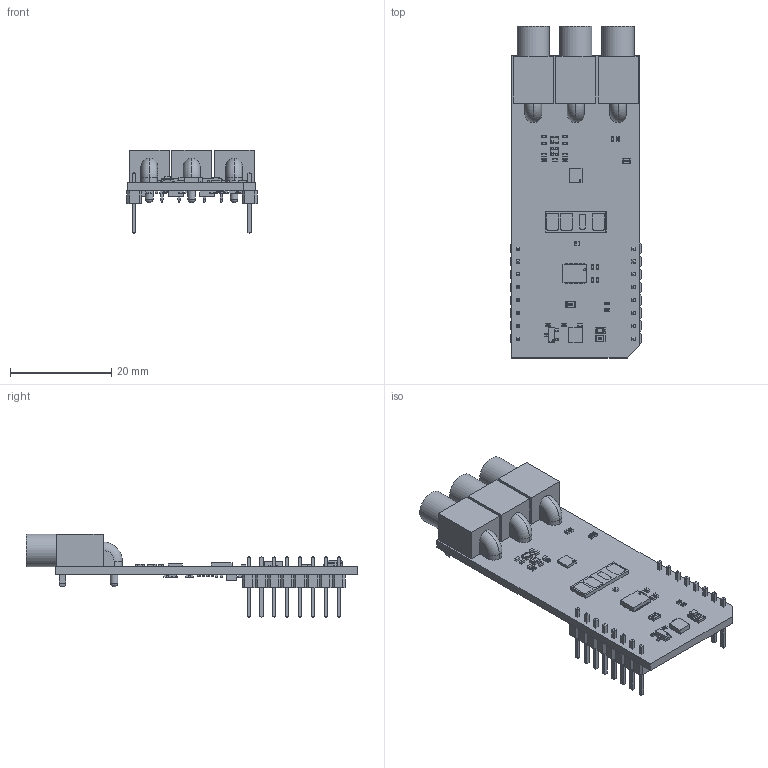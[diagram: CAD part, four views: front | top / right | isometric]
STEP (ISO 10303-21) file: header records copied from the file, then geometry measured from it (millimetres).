
FILE_DESCRIPTION(('Open CASCADE Model'),'2;1');
FILE_NAME('Open CASCADE Shape Model','2026-03-11T12:44:03',('Author'),( 'Open CASCADE'),'Open CASCADE STEP processor 7.5','Open CASCADE 7.5' ,'Unknown');
FILE_SCHEMA(('AUTOMOTIVE_DESIGN { 1 0 10303 214 1 1 1 1 }'));
Length unit declared in the file: millimetre
Products named in the file (139): PCB; Board; Open CASCADE STEP translator 7.5 1.1.1; JP2; User Library-R_0603; NT3; User Library-R_0402; JP1; User Library-R_0805; MBD1; Header 1x8; Free-Models; 1240637040; User_Library-PinHeaderX5-1_PinHeaderX5_Body_1; User_Library-PinHeaderX5-1_PinHeaderX5_Pins_1; R1; LD1; led_0805_green; R2; C1; User Library-SMD CAPACITOR0402; R3; U1; 7480502512; Extruded; Q1; SOT23-3; C2; C3; C4; C5; C6; C7; C8; C9; C10; C11; C12; C13; C14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
Assembly tree (231 placements, depth 7):
  PCB
    Board
      Open CASCADE STEP translator 7.5 1.1.1
    JP2
      User Library-R_0603
    NT3
      User Library-R_0402
    JP1
      User Library-R_0805
    MBD1
      Header 1x8  x2
        PCB
          Free-Models
            1240637040  x2
              User_Library-PinHeaderX5-1_PinHeaderX5_Body_1
              User_Library-PinHeaderX5-1_PinHeaderX5_Pins_1
    R1
      User Library-R_0805
    LD1
      led_0805_green
    R2
      User Library-R_0402
    C1
      User Library-SMD CAPACITOR0402
    R3
      User Library-R_0402
    U1
      7480502512
        Extruded
    Q1
      SOT23-3
    C2
      User Library-SMD CAPACITOR0402
    C3
      User Library-SMD CAPACITOR0402
    C4
      User Library-SMD CAPACITOR0402
    C5
      User Library-SMD CAPACITOR0402
    C6
      User Library-SMD CAPACITOR0402
    C7
      User Library-SMD CAPACITOR0402
    C8
      User Library-SMD CAPACITOR0402
    C9
      User Library-SMD CAPACITOR0402
    C10
      User Library-SMD CAPACITOR0402
    C11
      User Library-SMD CAPACITOR0402
    C12
      User Library-SMD CAPACITOR0402
    C13
      User Library-SMD CAPACITOR0402
    C14
      User Library-SMD CAPACITOR0402
    C15
      User Library-SMD CAPACITOR0402
    C16
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Bounding box: 25.78 x 65.56 x 16.52 mm (x, y, z)
Volume: 4888.1 mm3; surface area: 7331.6 mm2
Topology: 191 solids, 195 shells, 5128 faces, 12295 edges, 7362 vertices
Faces by surface type: plane 3147, cylinder 962, bspline 545, sphere 452, cone 16, torus 6
Full cylindrical faces by diameter (mm): 0.3 x2, 0.4 x1, 1.5 x3, 1.6 x3, 5.12 x3, 6.4 x3
Entity records: 41389 total; most frequent: CARTESIAN_POINT 12535, ORIENTED_EDGE 4620, DIRECTION 4326, EDGE_CURVE 2310, LINE 1862, VECTOR 1862, VERTEX_POINT 1492, AXIS2_PLACEMENT_3D 1232
